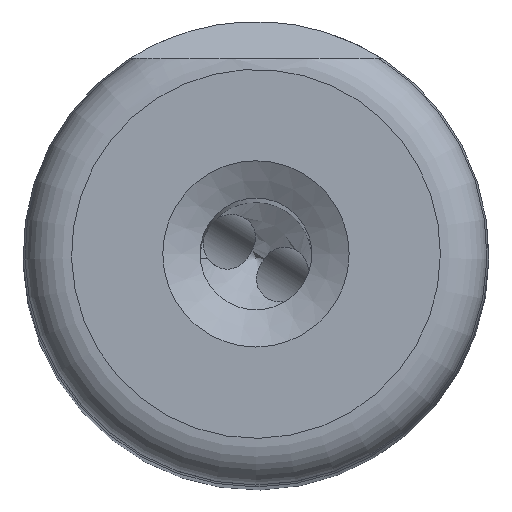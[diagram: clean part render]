
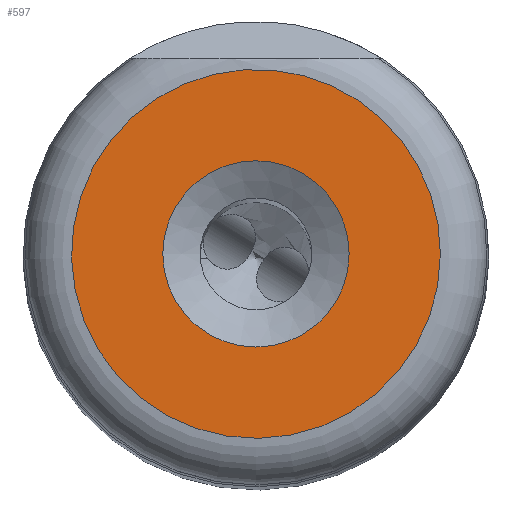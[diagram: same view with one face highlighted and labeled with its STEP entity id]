
A CAD part, top view. The second image highlights one B-rep face of the part: STEP entity #597.
In plain terms, the highlighted planar face has unit normal (0, 0, 1).
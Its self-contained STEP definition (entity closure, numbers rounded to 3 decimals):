
#353=FACE_BOUND('',#813,.T.);
#354=FACE_BOUND('',#814,.T.);
#597=ADVANCED_FACE('',(#353,#354),#673,.F.);
#673=PLANE('',#2307);
#813=EDGE_LOOP('',(#1141));
#814=EDGE_LOOP('',(#1142));
#1141=ORIENTED_EDGE('',*,*,#1937,.T.);
#1142=ORIENTED_EDGE('',*,*,#1924,.T.);
#1692=VERTEX_POINT('',#3501);
#1702=VERTEX_POINT('',#3579);
#1924=EDGE_CURVE('',#1692,#1692,#2172,.T.);
#1937=EDGE_CURVE('',#1702,#1702,#2176,.T.);
#2172=CIRCLE('',#2297,9.9);
#2176=CIRCLE('',#2306,5.);
#2297=AXIS2_PLACEMENT_3D('',#3500,#2601,#2602);
#2306=AXIS2_PLACEMENT_3D('',#3578,#2619,#2620);
#2307=AXIS2_PLACEMENT_3D('',#3580,#2621,#2622);
#2601=DIRECTION('',(0.,0.,1.));
#2602=DIRECTION('',(1.,0.,0.));
#2619=DIRECTION('',(0.,0.,-1.));
#2620=DIRECTION('',(-1.,0.,0.));
#2621=DIRECTION('',(0.,0.,-1.));
#2622=DIRECTION('',(1.,0.,0.));
#3500=CARTESIAN_POINT('',(0.,0.,0.));
#3501=CARTESIAN_POINT('',(9.9,0.,0.));
#3578=CARTESIAN_POINT('',(0.,0.,0.));
#3579=CARTESIAN_POINT('',(-5.,0.,0.));
#3580=CARTESIAN_POINT('',(-9.9,0.,0.));
